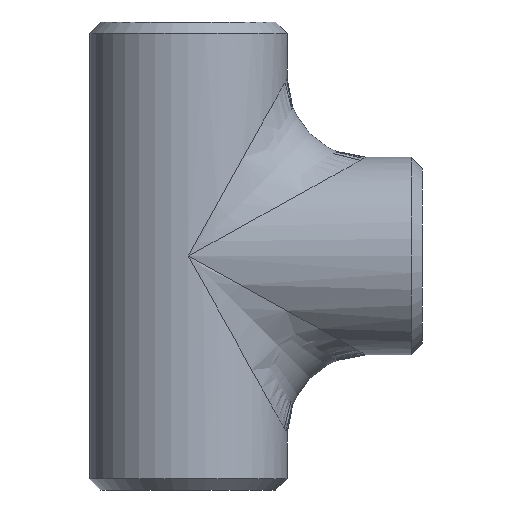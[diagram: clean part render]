
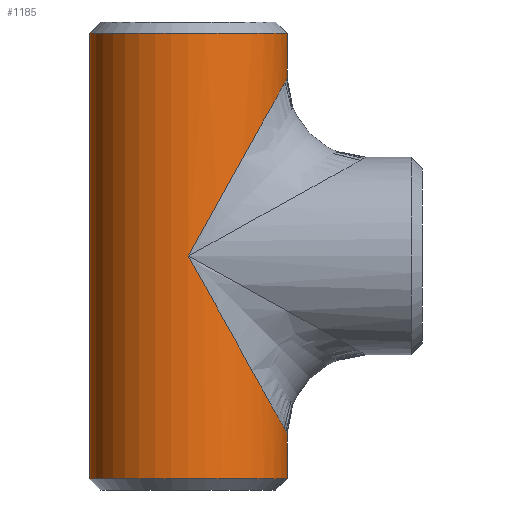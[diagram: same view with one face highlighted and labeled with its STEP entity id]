
A CAD part, front view. The second image highlights one B-rep face of the part: STEP entity #1185.
In plain terms, the highlighted cylindrical face has radius 24.15 mm (diameter 48.3 mm), a partial arc.
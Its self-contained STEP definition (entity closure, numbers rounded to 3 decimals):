
#40 = CARTESIAN_POINT ( 'NONE',  ( 24.15, 0., -43.47 ) ) ;
#52 = CARTESIAN_POINT ( 'NONE',  ( 24.15, 0., 57.2 ) ) ;
#61 = VERTEX_POINT ( 'NONE', #497 ) ;
#66 = CARTESIAN_POINT ( 'NONE',  ( 14.147, -24.15, -25.464 ) ) ;
#100 = CARTESIAN_POINT ( 'NONE',  ( 24.15, 0., 43.47 ) ) ;
#166 = CARTESIAN_POINT ( 'NONE',  ( 0., 0., 57.2 ) ) ;
#167 = VERTEX_POINT ( 'NONE', #831 ) ;
#173 = ORIENTED_EDGE ( 'NONE', *, *, #1107, .T. ) ;
#266 = VERTEX_POINT ( 'NONE', #1324 ) ;
#374 = DIRECTION ( 'NONE',  ( 1., 0., 0. ) ) ;
#387 = EDGE_LOOP ( 'NONE', ( #1224, #965, #644, #691, #704, #173, #1275 ) ) ;
#398 = EDGE_CURVE ( 'NONE', #1121, #266, #797, .T. ) ;
#450 = AXIS2_PLACEMENT_3D ( 'NONE', #166, #1303, #1079 ) ;
#461 = CYLINDRICAL_SURFACE ( 'NONE', #450, 24.15 ) ;
#470 = VERTEX_POINT ( 'NONE', #1002 ) ;
#476 = CARTESIAN_POINT ( 'NONE',  ( 24.15, 0., 57.2 ) ) ;
#479 =( BOUNDED_CURVE ( )  B_SPLINE_CURVE ( 3, ( #40, #1281, #66, #1186 ),
 .UNSPECIFIED., .F., .T. ) 
 B_SPLINE_CURVE_WITH_KNOTS ( ( 4, 4 ),
 ( 3.142, 4.712 ),
 .UNSPECIFIED. ) 
 CURVE ( )  GEOMETRIC_REPRESENTATION_ITEM ( )  RATIONAL_B_SPLINE_CURVE ( ( 1., 0.805, 0.805, 1. ) ) 
 REPRESENTATION_ITEM ( '' )  );
#497 = CARTESIAN_POINT ( 'NONE',  ( -24.15, 0., -54.44 ) ) ;
#504 = EDGE_CURVE ( 'NONE', #470, #167, #715, .T. ) ;
#539 = DIRECTION ( 'NONE',  ( 0., 0., -1. ) ) ;
#578 = AXIS2_PLACEMENT_3D ( 'NONE', #1261, #1159, #1147 ) ;
#630 = CIRCLE ( 'NONE', #804, 24.15 ) ;
#644 = ORIENTED_EDGE ( 'NONE', *, *, #949, .T. ) ;
#682 = VERTEX_POINT ( 'NONE', #1055 ) ;
#688 = CIRCLE ( 'NONE', #578, 24.15 ) ;
#690 = FACE_OUTER_BOUND ( 'NONE', #387, .T. ) ;
#691 = ORIENTED_EDGE ( 'NONE', *, *, #981, .T. ) ;
#704 = ORIENTED_EDGE ( 'NONE', *, *, #398, .F. ) ;
#715 =( BOUNDED_CURVE ( )  B_SPLINE_CURVE ( 3, ( #840, #721, #1243, #100 ),
 .UNSPECIFIED., .F., .F. ) 
 B_SPLINE_CURVE_WITH_KNOTS ( ( 4, 4 ),
 ( 1.571, 3.142 ),
 .UNSPECIFIED. ) 
 CURVE ( )  GEOMETRIC_REPRESENTATION_ITEM ( )  RATIONAL_B_SPLINE_CURVE ( ( 1., 0.805, 0.805, 1. ) ) 
 REPRESENTATION_ITEM ( '' )  );
#721 = CARTESIAN_POINT ( 'NONE',  ( 14.147, -24.15, 25.464 ) ) ;
#780 = DIRECTION ( 'NONE',  ( 0., 0., -1. ) ) ;
#797 = LINE ( 'NONE', #52, #814 ) ;
#804 = AXIS2_PLACEMENT_3D ( 'NONE', #1179, #1084, #374 ) ;
#807 = VERTEX_POINT ( 'NONE', #1166 ) ;
#814 = VECTOR ( 'NONE', #1300, 1000. ) ;
#831 = CARTESIAN_POINT ( 'NONE',  ( 24.15, 0., 43.47 ) ) ;
#840 = CARTESIAN_POINT ( 'NONE',  ( 0., -24.15, 0. ) ) ;
#878 = LINE ( 'NONE', #476, #1262 ) ;
#925 = VECTOR ( 'NONE', #539, 1000. ) ;
#946 = LINE ( 'NONE', #1052, #925 ) ;
#949 = EDGE_CURVE ( 'NONE', #682, #61, #946, .T. ) ;
#965 = ORIENTED_EDGE ( 'NONE', *, *, #1325, .T. ) ;
#975 = CARTESIAN_POINT ( 'NONE',  ( 24.15, 0., -43.47 ) ) ;
#981 = EDGE_CURVE ( 'NONE', #61, #266, #688, .T. ) ;
#1002 = CARTESIAN_POINT ( 'NONE',  ( 0., -24.15, 0. ) ) ;
#1052 = CARTESIAN_POINT ( 'NONE',  ( -24.15, 0., 57.2 ) ) ;
#1055 = CARTESIAN_POINT ( 'NONE',  ( -24.15, 0., 54.44 ) ) ;
#1079 = DIRECTION ( 'NONE',  ( -1., 0., 0. ) ) ;
#1084 = DIRECTION ( 'NONE',  ( 0., 0., -1. ) ) ;
#1092 = EDGE_CURVE ( 'NONE', #807, #167, #878, .T. ) ;
#1107 = EDGE_CURVE ( 'NONE', #1121, #470, #479, .T. ) ;
#1121 = VERTEX_POINT ( 'NONE', #975 ) ;
#1147 = DIRECTION ( 'NONE',  ( 1., 0., 0. ) ) ;
#1159 = DIRECTION ( 'NONE',  ( 0., 0., 1. ) ) ;
#1166 = CARTESIAN_POINT ( 'NONE',  ( 24.15, 0., 54.44 ) ) ;
#1179 = CARTESIAN_POINT ( 'NONE',  ( 0., 0., 54.44 ) ) ;
#1185 = ADVANCED_FACE ( 'NONE', ( #690 ), #461, .T. ) ;
#1186 = CARTESIAN_POINT ( 'NONE',  ( 0., -24.15, 0. ) ) ;
#1224 = ORIENTED_EDGE ( 'NONE', *, *, #1092, .F. ) ;
#1243 = CARTESIAN_POINT ( 'NONE',  ( 24.15, -14.147, 43.47 ) ) ;
#1261 = CARTESIAN_POINT ( 'NONE',  ( 0., 0., -54.44 ) ) ;
#1262 = VECTOR ( 'NONE', #780, 1000. ) ;
#1275 = ORIENTED_EDGE ( 'NONE', *, *, #504, .T. ) ;
#1281 = CARTESIAN_POINT ( 'NONE',  ( 24.15, -14.147, -43.47 ) ) ;
#1300 = DIRECTION ( 'NONE',  ( 0., 0., -1. ) ) ;
#1303 = DIRECTION ( 'NONE',  ( 0., 0., -1. ) ) ;
#1324 = CARTESIAN_POINT ( 'NONE',  ( 24.15, 0., -54.44 ) ) ;
#1325 = EDGE_CURVE ( 'NONE', #807, #682, #630, .T. ) ;
